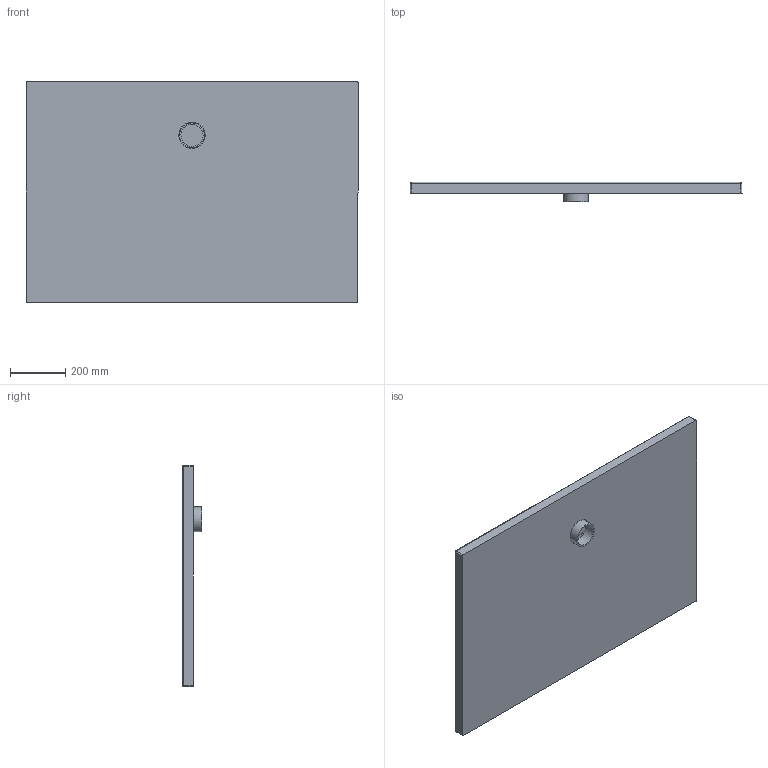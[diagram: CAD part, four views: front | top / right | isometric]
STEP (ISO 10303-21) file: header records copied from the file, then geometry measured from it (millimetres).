
FILE_DESCRIPTION (( 'STEP AP203' ), '1' );
FILE_NAME ('REPD12008040.STEP', '2025-05-06T10:08:57', ( '' ), ( '' ), 'SwSTEP 2.0', 'SolidWorks 2024', '' );
FILE_SCHEMA (( 'CONFIG_CONTROL_DESIGN' ));
Products named in the file (3): REPD12008040; PILETTA PIATTI DOCCIA
Assembly tree (2 placements, depth 2):
  REPD12008040
    REPD12008040
    PILETTA PIATTI DOCCIA
Bounding box: 1201.4 x 71 x 801.4 mm (x, y, z)
Volume: 32788944.4 mm3; surface area: 2124092.4 mm2
Topology: 2 solids, 2 shells, 649 faces, 1354 edges, 893 vertices
Faces by surface type: bspline 590, plane 28, cylinder 21, sphere 4, torus 4, cone 2
Full cylindrical faces by diameter (mm): 80 x1, 90 x1, 95 x1, 114 x1, 120 x1
Entity records: 167239 total; most frequent: CARTESIAN_POINT 159227, ORIENTED_EDGE 1526, EDGE_LOOP 1250, FACE_OUTER_BOUND 1042, EDGE_CURVE 763, VERTEX_POINT 701, ADVANCED_FACE 649, B_SPLINE_CURVE_WITH_KNOTS 607
